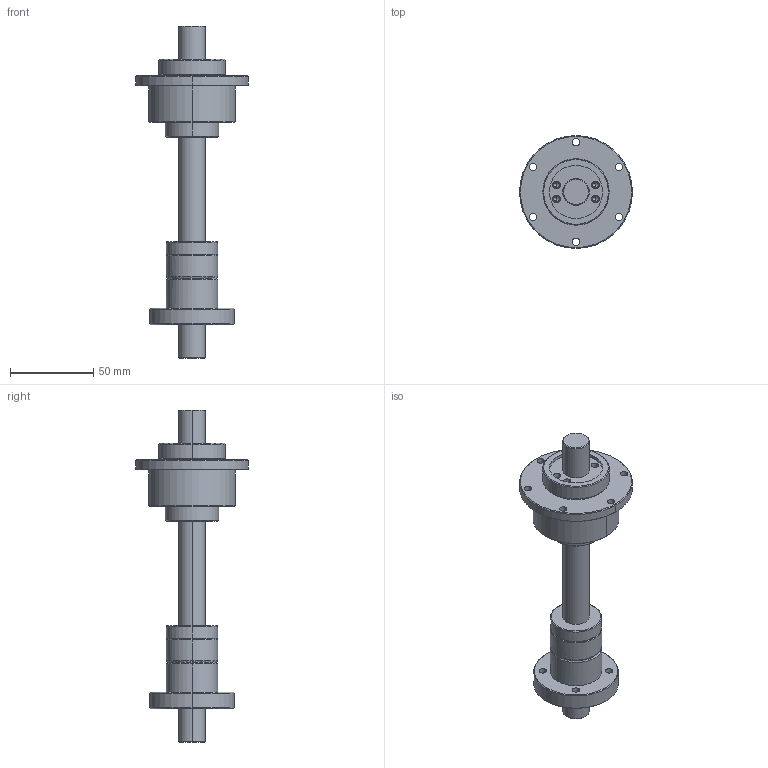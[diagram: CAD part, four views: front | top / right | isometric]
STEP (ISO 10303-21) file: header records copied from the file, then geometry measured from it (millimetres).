
FILE_DESCRIPTION (( 'STEP AP203' ), '1' );
FILE_NAME ('RBLY1616.STEP', '2014-11-13T08:57:26', ( '' ), ( '' ), 'SwSTEP 2.0', 'SolidWorks 2014', '' );
FILE_SCHEMA (( 'CONFIG_CONTROL_DESIGN' ));
Length unit declared in the file: millimetre
Products named in the file (4): SC16; SLF16; RBLY1616; RFBY1616
Assembly tree (3 placements, depth 2):
  RBLY1616
    SC16
    RFBY1616
    SLF16
Bounding box: 68 x 68 x 200 mm (x, y, z)
Volume: 155171.2 mm3; surface area: 44550.2 mm2
Topology: 5 solids, 5 shells, 165 faces, 398 edges, 246 vertices
Faces by surface type: cylinder 90, plane 33, cone 28, torus 14
Entity records: 5420 total; most frequent: CARTESIAN_POINT 983, DIRECTION 934, ORIENTED_EDGE 780, AXIS2_PLACEMENT_3D 393, EDGE_CURVE 390, VERTEX_POINT 246, CIRCLE 222, EDGE_LOOP 208
